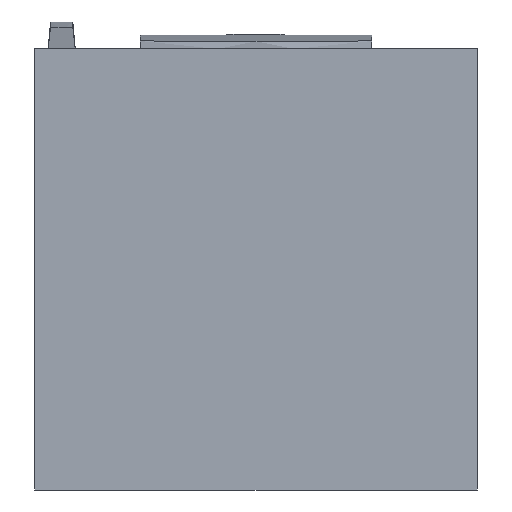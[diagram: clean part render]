
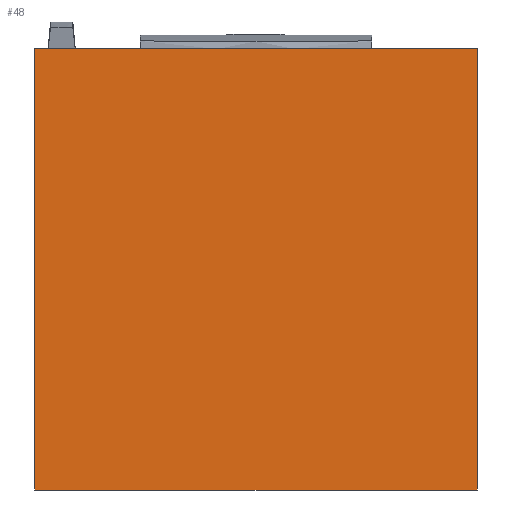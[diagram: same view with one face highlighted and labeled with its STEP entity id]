
A CAD part, front view. The second image highlights one B-rep face of the part: STEP entity #48.
In plain terms, the highlighted planar face has unit normal (0, -1, 0).
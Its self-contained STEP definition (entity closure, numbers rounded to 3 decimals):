
#48=ADVANCED_FACE('Corps principal',(#100),#101,.F.);
#100=FACE_OUTER_BOUND('',#194,.T.);
#101=PLANE('',#195);
#194=EDGE_LOOP('',(#460,#461,#462,#463));
#195=AXIS2_PLACEMENT_3D('',#464,#465,#466);
#460=ORIENTED_EDGE('',*,*,#811,.F.);
#461=ORIENTED_EDGE('',*,*,#812,.F.);
#462=ORIENTED_EDGE('',*,*,#781,.F.);
#463=ORIENTED_EDGE('',*,*,#810,.F.);
#464=CARTESIAN_POINT('',(0.0,-21.0,0.0));
#465=DIRECTION('',(0.0,1.0,0.0));
#466=DIRECTION('',(1.0,-0.0,0.0));
#781=EDGE_CURVE('',#894,#897,#898,.T.);
#810=EDGE_CURVE('',#952,#894,#954,.F.);
#811=EDGE_CURVE('',#955,#952,#956,.T.);
#812=EDGE_CURVE('',#897,#955,#957,.F.);
#894=VERTEX_POINT('',#1084);
#897=VERTEX_POINT('',#1088);
#898=LINE('',#1089,#1090);
#952=VERTEX_POINT('',#1250);
#954=LINE('',#1253,#1254);
#955=VERTEX_POINT('',#1255);
#956=LINE('',#1256,#1257);
#957=LINE('',#1258,#1259);
#1084=CARTESIAN_POINT('',(-301.5,-21.0,300.0));
#1088=CARTESIAN_POINT('',(301.5,-21.0,300.0));
#1089=CARTESIAN_POINT('',(0.0,-21.0,300.0));
#1090=VECTOR('',#1527,1.0);
#1250=CARTESIAN_POINT('',(-301.5,-21.0,-301.5));
#1253=CARTESIAN_POINT('',(-301.5,-21.0,-0.75));
#1254=VECTOR('',#1556,1.0);
#1255=CARTESIAN_POINT('',(301.5,-21.0,-301.5));
#1256=CARTESIAN_POINT('',(0.0,-21.0,-301.5));
#1257=VECTOR('',#1557,1.0);
#1258=CARTESIAN_POINT('',(301.5,-21.0,-0.75));
#1259=VECTOR('',#1558,1.0);
#1527=DIRECTION('',(1.0,0.0,0.0));
#1556=DIRECTION('',(0.0,0.0,-1.0));
#1557=DIRECTION('',(-1.0,0.0,0.0));
#1558=DIRECTION('',(0.0,0.0,1.0));
